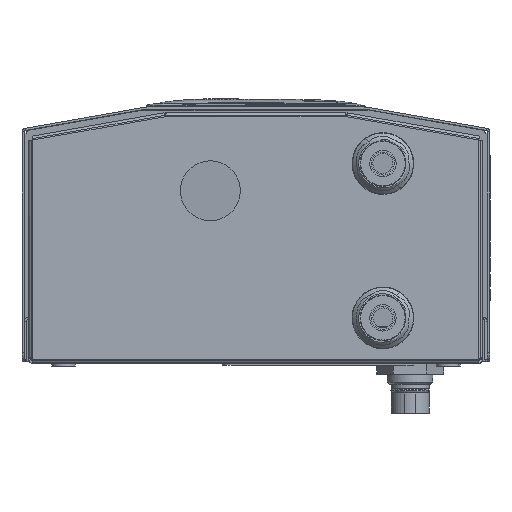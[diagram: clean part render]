
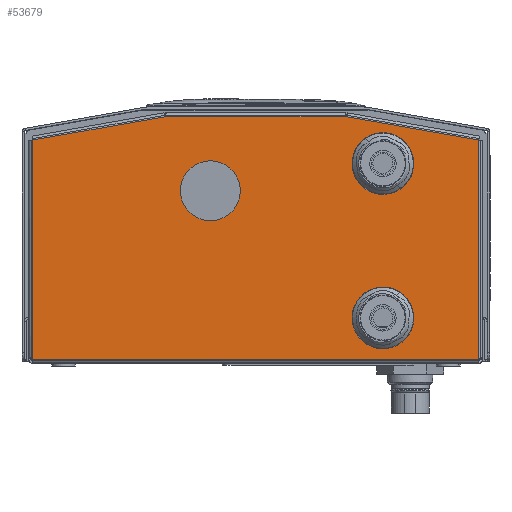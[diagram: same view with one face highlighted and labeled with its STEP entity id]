
A CAD part, front view. The second image highlights one B-rep face of the part: STEP entity #53679.
In plain terms, the highlighted planar face has unit normal (0, -1, 0).
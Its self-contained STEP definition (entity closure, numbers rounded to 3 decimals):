
#1177 = FACE_BOUND ( 'NONE', #149530, .T. ) ;
#1878 = CARTESIAN_POINT ( 'NONE',  ( 70., -601.422, 10.878 ) ) ;
#2524 = CARTESIAN_POINT ( 'NONE',  ( -49.807, -601.422, 134.368 ) ) ;
#4081 = CIRCLE ( 'NONE', #175906, 12.7 ) ;
#5001 = EDGE_CURVE ( 'NONE', #66938, #188183, #14929, .T. ) ;
#10258 = VECTOR ( 'NONE', #118952, 1000. ) ;
#10280 = DIRECTION ( 'NONE',  ( 0., 1., 0. ) ) ;
#12084 = EDGE_CURVE ( 'NONE', #66938, #89957, #121856, .T. ) ;
#13415 = CARTESIAN_POINT ( 'NONE',  ( 122.79, -601.422, 121.499 ) ) ;
#14929 = LINE ( 'NONE', #103924, #10258 ) ;
#19136 = DIRECTION ( 'NONE',  ( 0., -1., 0. ) ) ;
#22789 = VERTEX_POINT ( 'NONE', #110672 ) ;
#22943 = DIRECTION ( 'NONE',  ( 0., 1., 0. ) ) ;
#23524 = AXIS2_PLACEMENT_3D ( 'NONE', #38906, #143853, #54037 ) ;
#27428 = DIRECTION ( 'NONE',  ( 0., -1., 0. ) ) ;
#38192 = CARTESIAN_POINT ( 'NONE',  ( 122.79, -601.422, 0.787 ) ) ;
#38906 = CARTESIAN_POINT ( 'NONE',  ( -25., -601.422, 93.578 ) ) ;
#41039 = FACE_BOUND ( 'NONE', #72418, .T. ) ;
#42719 = AXIS2_PLACEMENT_3D ( 'NONE', #100117, #10280, #115166 ) ;
#45202 = EDGE_CURVE ( 'NONE', #22789, #92452, #164208, .T. ) ;
#52125 = CARTESIAN_POINT ( 'NONE',  ( 49.807, -601.422, 134.368 ) ) ;
#52267 = ORIENTED_EDGE ( 'NONE', *, *, #174053, .T. ) ;
#53679 = ADVANCED_FACE ( 'NONE', ( #76252, #1177, #41039, #90355 ), #187401, .F. ) ;
#54037 = DIRECTION ( 'NONE',  ( 0., 0., 1. ) ) ;
#54079 = DIRECTION ( 'NONE',  ( -1., 0., 0. ) ) ;
#55133 = CARTESIAN_POINT ( 'NONE',  ( 70., -601.422, 108.578 ) ) ;
#57846 = AXIS2_PLACEMENT_3D ( 'NONE', #172348, #22943, #127793 ) ;
#62357 = LINE ( 'NONE', #52125, #97567 ) ;
#62464 = ORIENTED_EDGE ( 'NONE', *, *, #95359, .F. ) ;
#62637 = VERTEX_POINT ( 'NONE', #133173 ) ;
#65941 = CARTESIAN_POINT ( 'NONE',  ( -125., -601.422, 0.787 ) ) ;
#66282 = VECTOR ( 'NONE', #130622, 1000. ) ;
#66938 = VERTEX_POINT ( 'NONE', #38192 ) ;
#70154 = DIRECTION ( 'NONE',  ( 0., 0., -1. ) ) ;
#70771 = EDGE_CURVE ( 'NONE', #181042, #22789, #62357, .T. ) ;
#72418 = EDGE_LOOP ( 'NONE', ( #104441, #191242 ) ) ;
#76252 = FACE_BOUND ( 'NONE', #84691, .T. ) ;
#77269 = DIRECTION ( 'NONE',  ( -0.985, 0., -0.174 ) ) ;
#77945 = AXIS2_PLACEMENT_3D ( 'NONE', #108973, #19136, #123996 ) ;
#77949 = CIRCLE ( 'NONE', #77945, 12.7 ) ;
#78003 = CARTESIAN_POINT ( 'NONE',  ( 70., -601.422, 95.878 ) ) ;
#78718 = CIRCLE ( 'NONE', #127733, 12.7 ) ;
#79173 = EDGE_LOOP ( 'NONE', ( #187753, #52267, #155600, #156314, #130946, #125884 ) ) ;
#80345 = ORIENTED_EDGE ( 'NONE', *, *, #120896, .T. ) ;
#83330 = CIRCLE ( 'NONE', #121450, 12.7 ) ;
#84465 = VECTOR ( 'NONE', #77269, 1000. ) ;
#84691 = EDGE_LOOP ( 'NONE', ( #80345, #85277 ) ) ;
#85277 = ORIENTED_EDGE ( 'NONE', *, *, #180728, .T. ) ;
#85566 = DIRECTION ( 'NONE',  ( 0., -1., 0. ) ) ;
#89957 = VERTEX_POINT ( 'NONE', #177787 ) ;
#90355 = FACE_OUTER_BOUND ( 'NONE', #79173, .T. ) ;
#92452 = VERTEX_POINT ( 'NONE', #99595 ) ;
#95091 = CIRCLE ( 'NONE', #23524, 16.51 ) ;
#95359 = EDGE_CURVE ( 'NONE', #101285, #114706, #77949, .T. ) ;
#97567 = VECTOR ( 'NONE', #54079, 1000. ) ;
#99595 = CARTESIAN_POINT ( 'NONE',  ( -122.79, -601.422, 121.499 ) ) ;
#100117 = CARTESIAN_POINT ( 'NONE',  ( -25., -601.422, 93.578 ) ) ;
#101285 = VERTEX_POINT ( 'NONE', #1878 ) ;
#102237 = CARTESIAN_POINT ( 'NONE',  ( 70., -601.422, 121.278 ) ) ;
#103924 = CARTESIAN_POINT ( 'NONE',  ( 122.79, -601.422, 0.787 ) ) ;
#104441 = ORIENTED_EDGE ( 'NONE', *, *, #182364, .F. ) ;
#108973 = CARTESIAN_POINT ( 'NONE',  ( 70., -601.422, 23.578 ) ) ;
#110672 = CARTESIAN_POINT ( 'NONE',  ( -49.807, -601.422, 134.368 ) ) ;
#110723 = VERTEX_POINT ( 'NONE', #78003 ) ;
#113451 = VERTEX_POINT ( 'NONE', #102237 ) ;
#114706 = VERTEX_POINT ( 'NONE', #182286 ) ;
#115166 = DIRECTION ( 'NONE',  ( 0., 0., 1. ) ) ;
#117143 = VECTOR ( 'NONE', #187125, 1000. ) ;
#117200 = CARTESIAN_POINT ( 'NONE',  ( 70., -601.422, 108.578 ) ) ;
#118952 = DIRECTION ( 'NONE',  ( 0., 0., 1. ) ) ;
#120596 = EDGE_CURVE ( 'NONE', #113451, #110723, #78718, .T. ) ;
#120896 = EDGE_CURVE ( 'NONE', #62637, #124873, #95091, .T. ) ;
#121450 = AXIS2_PLACEMENT_3D ( 'NONE', #175292, #85566, #190334 ) ;
#121856 = LINE ( 'NONE', #65941, #117143 ) ;
#122597 = CARTESIAN_POINT ( 'NONE',  ( -122.79, -601.422, 121.507 ) ) ;
#123996 = DIRECTION ( 'NONE',  ( 0., 0., -1. ) ) ;
#124873 = VERTEX_POINT ( 'NONE', #165040 ) ;
#125884 = ORIENTED_EDGE ( 'NONE', *, *, #12084, .F. ) ;
#127733 = AXIS2_PLACEMENT_3D ( 'NONE', #117200, #27428, #132296 ) ;
#127793 = DIRECTION ( 'NONE',  ( 0., 0., 1. ) ) ;
#130622 = DIRECTION ( 'NONE',  ( -0.985, 0., 0.174 ) ) ;
#130946 = ORIENTED_EDGE ( 'NONE', *, *, #180002, .T. ) ;
#132296 = DIRECTION ( 'NONE',  ( 0., 0., -1. ) ) ;
#133173 = CARTESIAN_POINT ( 'NONE',  ( -25., -601.422, 110.088 ) ) ;
#135936 = LINE ( 'NONE', #122597, #175735 ) ;
#136719 = CARTESIAN_POINT ( 'NONE',  ( 49.807, -601.422, 134.368 ) ) ;
#137731 = DIRECTION ( 'NONE',  ( 0., 0., -1. ) ) ;
#140287 = EDGE_CURVE ( 'NONE', #114706, #101285, #83330, .T. ) ;
#143853 = DIRECTION ( 'NONE',  ( 0., 1., 0. ) ) ;
#149530 = EDGE_LOOP ( 'NONE', ( #62464, #156183 ) ) ;
#155600 = ORIENTED_EDGE ( 'NONE', *, *, #70771, .T. ) ;
#156183 = ORIENTED_EDGE ( 'NONE', *, *, #140287, .F. ) ;
#156314 = ORIENTED_EDGE ( 'NONE', *, *, #45202, .T. ) ;
#156810 = CIRCLE ( 'NONE', #42719, 16.51 ) ;
#159996 = DIRECTION ( 'NONE',  ( 0., -1., 0. ) ) ;
#160175 = CARTESIAN_POINT ( 'NONE',  ( 122.798, -601.422, 121.497 ) ) ;
#164208 = LINE ( 'NONE', #2524, #84465 ) ;
#165040 = CARTESIAN_POINT ( 'NONE',  ( -25., -601.422, 77.068 ) ) ;
#172348 = CARTESIAN_POINT ( 'NONE',  ( -125., -601.422, 136.578 ) ) ;
#174053 = EDGE_CURVE ( 'NONE', #188183, #181042, #185831, .T. ) ;
#175292 = CARTESIAN_POINT ( 'NONE',  ( 70., -601.422, 23.578 ) ) ;
#175735 = VECTOR ( 'NONE', #137731, 1000. ) ;
#175906 = AXIS2_PLACEMENT_3D ( 'NONE', #55133, #159996, #70154 ) ;
#177787 = CARTESIAN_POINT ( 'NONE',  ( -122.79, -601.422, 0.787 ) ) ;
#180002 = EDGE_CURVE ( 'NONE', #92452, #89957, #135936, .T. ) ;
#180728 = EDGE_CURVE ( 'NONE', #124873, #62637, #156810, .T. ) ;
#181042 = VERTEX_POINT ( 'NONE', #136719 ) ;
#182286 = CARTESIAN_POINT ( 'NONE',  ( 70., -601.422, 36.278 ) ) ;
#182364 = EDGE_CURVE ( 'NONE', #110723, #113451, #4081, .T. ) ;
#185831 = LINE ( 'NONE', #160175, #66282 ) ;
#187125 = DIRECTION ( 'NONE',  ( -1., 0., 0. ) ) ;
#187401 = PLANE ( 'NONE',  #57846 ) ;
#187753 = ORIENTED_EDGE ( 'NONE', *, *, #5001, .T. ) ;
#188183 = VERTEX_POINT ( 'NONE', #13415 ) ;
#190334 = DIRECTION ( 'NONE',  ( 0., 0., -1. ) ) ;
#191242 = ORIENTED_EDGE ( 'NONE', *, *, #120596, .F. ) ;
